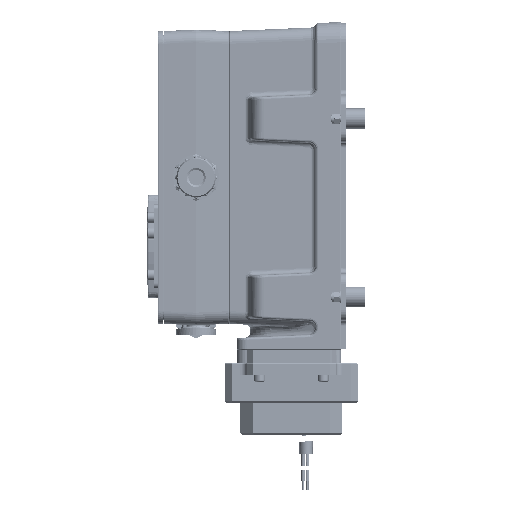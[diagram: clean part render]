
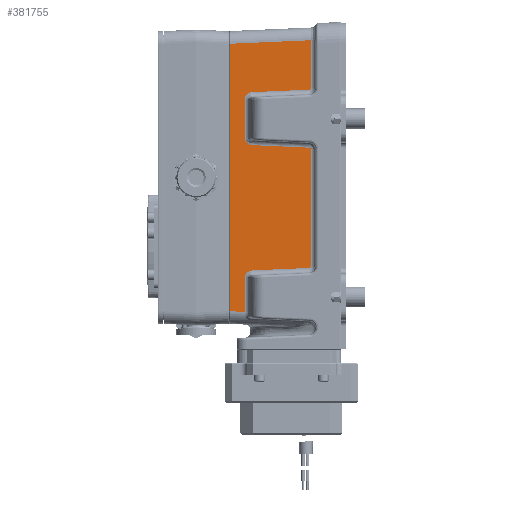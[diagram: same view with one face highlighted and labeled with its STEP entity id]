
A CAD part, left-side view. The second image highlights one B-rep face of the part: STEP entity #381755.
In plain terms, the highlighted planar face has unit normal (-0.999, 0.044, 0).
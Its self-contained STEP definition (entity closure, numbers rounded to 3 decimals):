
#82332=DIRECTION('',(0.,0.,-1.));
#82333=VECTOR('',#82332,37.794);
#82334=CARTESIAN_POINT('',(-47.771,-15.174,
107.781));
#82335=LINE('',#82334,#82333);
#82336=CARTESIAN_POINT('',(-47.771,-15.174,
69.986));
#82337=CARTESIAN_POINT('',(-47.771,-15.174,
69.853));
#82338=CARTESIAN_POINT('',(-47.769,-15.125,
69.608));
#82339=CARTESIAN_POINT('',(-47.76,-14.916,
69.277));
#82340=CARTESIAN_POINT('',(-47.746,-14.595,
69.053));
#82341=CARTESIAN_POINT('',(-47.735,-14.351,
68.993));
#82342=CARTESIAN_POINT('',(-47.73,-14.218,
68.987));
#82344=DIRECTION('',(0.044,0.998,-0.044));
#82345=VECTOR('',#82344,44.815);
#82346=CARTESIAN_POINT('',(-47.73,-14.218,
68.987));
#82347=LINE('',#82346,#82345);
#82348=CARTESIAN_POINT('',(-45.777,30.512,
67.034));
#82349=CARTESIAN_POINT('',(-45.751,31.098,
67.009));
#82350=CARTESIAN_POINT('',(-45.702,32.212,
66.817));
#82351=CARTESIAN_POINT('',(-45.634,33.769,
66.129));
#82352=CARTESIAN_POINT('',(-45.579,35.046,
65.114));
#82353=CARTESIAN_POINT('',(-45.537,35.989,
63.865));
#82354=CARTESIAN_POINT('',(-45.513,36.562,
62.464));
#82355=CARTESIAN_POINT('',(-45.507,36.689,
61.501));
#82356=CARTESIAN_POINT('',(-45.507,36.689,
61.007));
#82358=DIRECTION('',(0.,0.,-1.));
#82359=VECTOR('',#82358,29.614);
#82360=CARTESIAN_POINT('',(-45.507,36.689,
61.007));
#82361=LINE('',#82360,#82359);
#82362=CARTESIAN_POINT('',(-45.507,36.689,
31.393));
#82363=CARTESIAN_POINT('',(-45.507,36.689,
30.899));
#82364=CARTESIAN_POINT('',(-45.513,36.561,
29.936));
#82365=CARTESIAN_POINT('',(-45.537,35.989,
28.535));
#82366=CARTESIAN_POINT('',(-45.579,35.046,
27.286));
#82367=CARTESIAN_POINT('',(-45.634,33.769,
26.271));
#82368=CARTESIAN_POINT('',(-45.702,32.212,
25.583));
#82369=CARTESIAN_POINT('',(-45.751,31.098,
25.391));
#82370=CARTESIAN_POINT('',(-45.777,30.512,
25.366));
#82372=DIRECTION('',(-0.044,-0.998,-0.044));
#82373=VECTOR('',#82372,44.815);
#82374=CARTESIAN_POINT('',(-45.777,30.512,
25.366));
#82375=LINE('',#82374,#82373);
#82376=CARTESIAN_POINT('',(-47.73,-14.218,
23.413));
#82377=CARTESIAN_POINT('',(-47.735,-14.351,
23.407));
#82378=CARTESIAN_POINT('',(-47.746,-14.595,
23.347));
#82379=CARTESIAN_POINT('',(-47.76,-14.916,
23.123));
#82380=CARTESIAN_POINT('',(-47.769,-15.125,
22.792));
#82381=CARTESIAN_POINT('',(-47.771,-15.174,
22.547));
#82382=CARTESIAN_POINT('',(-47.771,-15.174,
22.414));
#82384=DIRECTION('',(0.,0.,-1.));
#82385=VECTOR('',#82384,92.427);
#82386=CARTESIAN_POINT('',(-47.771,-15.174,
22.414));
#82387=LINE('',#82386,#82385);
#82388=CARTESIAN_POINT('',(-47.771,-15.174,
-70.014));
#82389=CARTESIAN_POINT('',(-47.771,-15.174,
-70.147));
#82390=CARTESIAN_POINT('',(-47.769,-15.125,
-70.392));
#82391=CARTESIAN_POINT('',(-47.76,-14.916,
-70.723));
#82392=CARTESIAN_POINT('',(-47.746,-14.595,
-70.947));
#82393=CARTESIAN_POINT('',(-47.735,-14.351,
-71.007));
#82394=CARTESIAN_POINT('',(-47.73,-14.218,
-71.013));
#82396=DIRECTION('',(0.044,0.998,-0.044));
#82397=VECTOR('',#82396,44.815);
#82398=CARTESIAN_POINT('',(-47.73,-14.218,
-71.013));
#82399=LINE('',#82398,#82397);
#82400=CARTESIAN_POINT('',(-45.777,30.512,
-72.966));
#82401=CARTESIAN_POINT('',(-45.751,31.098,
-72.991));
#82402=CARTESIAN_POINT('',(-45.702,32.212,
-73.183));
#82403=CARTESIAN_POINT('',(-45.634,33.769,
-73.871));
#82404=CARTESIAN_POINT('',(-45.579,35.046,
-74.886));
#82405=CARTESIAN_POINT('',(-45.537,35.989,
-76.135));
#82406=CARTESIAN_POINT('',(-45.513,36.562,
-77.536));
#82407=CARTESIAN_POINT('',(-45.507,36.689,
-78.499));
#82408=CARTESIAN_POINT('',(-45.507,36.689,
-78.993));
#82410=DIRECTION('',(0.,0.,-1.));
#82411=VECTOR('',#82410,26.523);
#82412=CARTESIAN_POINT('',(-45.507,36.689,
-78.993));
#82413=LINE('',#82412,#82411);
#82414=DIRECTION('',(0.044,0.998,0.044));
#82415=VECTOR('',#82414,11.634);
#82416=CARTESIAN_POINT('',(-45.507,36.689,
-105.516));
#82417=LINE('',#82416,#82415);
#82418=DIRECTION('',(0.,0.,-1.));
#82419=VECTOR('',#82418,210.01);
#82420=CARTESIAN_POINT('',(-45.,48.3,
105.005));
#82421=LINE('',#82420,#82419);
#82422=DIRECTION('',(-0.044,-0.998,0.044));
#82423=VECTOR('',#82422,63.596);
#82424=CARTESIAN_POINT('',(-45.,48.3,
105.005));
#82425=LINE('',#82424,#82423);
#182080=CARTESIAN_POINT('',(-45.,48.3,
105.005));
#182081=CARTESIAN_POINT('',(-45.,48.3,
-105.005));
#182082=VERTEX_POINT('',#182080);
#182083=VERTEX_POINT('',#182081);
#182247=CARTESIAN_POINT('',(-47.771,-15.174,
107.781));
#182248=CARTESIAN_POINT('',(-47.771,-15.174,
69.986));
#182249=VERTEX_POINT('',#182247);
#182250=VERTEX_POINT('',#182248);
#182253=VERTEX_POINT('',#82342);
#182254=CARTESIAN_POINT('',(-45.777,30.512,
67.034));
#182255=VERTEX_POINT('',#182254);
#182256=VERTEX_POINT('',#82356);
#182257=CARTESIAN_POINT('',(-45.507,36.689,
31.393));
#182258=VERTEX_POINT('',#182257);
#182259=VERTEX_POINT('',#82370);
#182260=CARTESIAN_POINT('',(-47.73,-14.218,
23.413));
#182261=VERTEX_POINT('',#182260);
#182262=VERTEX_POINT('',#82382);
#182263=CARTESIAN_POINT('',(-47.771,-15.174,
-70.014));
#182264=VERTEX_POINT('',#182263);
#182265=VERTEX_POINT('',#82394);
#182266=CARTESIAN_POINT('',(-45.777,30.512,
-72.966));
#182267=VERTEX_POINT('',#182266);
#182268=VERTEX_POINT('',#82408);
#182269=CARTESIAN_POINT('',(-45.507,36.689,
-105.516));
#182270=VERTEX_POINT('',#182269);
#381719=CARTESIAN_POINT('',(-45.,48.3,105.));
#381720=DIRECTION('',(-0.999,0.044,0.));
#381721=DIRECTION('',(0.,0.,-1.));
#381722=AXIS2_PLACEMENT_3D('',#381719,#381720,#381721);
#381723=PLANE('',#381722);
#381725=ORIENTED_EDGE('',*,*,#381724,.T.);
#381727=ORIENTED_EDGE('',*,*,#381726,.T.);
#381729=ORIENTED_EDGE('',*,*,#381728,.T.);
#381731=ORIENTED_EDGE('',*,*,#381730,.T.);
#381733=ORIENTED_EDGE('',*,*,#381732,.T.);
#381735=ORIENTED_EDGE('',*,*,#381734,.T.);
#381737=ORIENTED_EDGE('',*,*,#381736,.T.);
#381739=ORIENTED_EDGE('',*,*,#381738,.T.);
#381741=ORIENTED_EDGE('',*,*,#381740,.T.);
#381743=ORIENTED_EDGE('',*,*,#381742,.T.);
#381745=ORIENTED_EDGE('',*,*,#381744,.T.);
#381747=ORIENTED_EDGE('',*,*,#381746,.T.);
#381749=ORIENTED_EDGE('',*,*,#381748,.T.);
#381750=ORIENTED_EDGE('',*,*,#381710,.T.);
#381751=ORIENTED_EDGE('',*,*,#380493,.F.);
#381752=ORIENTED_EDGE('',*,*,#380521,.T.);
#381753=EDGE_LOOP('',(#381725,#381727,#381729,#381731,#381733,#381735,#381737,
#381739,#381741,#381743,#381745,#381747,#381749,#381750,#381751,#381752));
#381754=FACE_OUTER_BOUND('',#381753,.F.);
#82343=B_SPLINE_CURVE_WITH_KNOTS('',3,(#82336,#82337,#82338,#82339,#82340,
#82341,#82342),.UNSPECIFIED.,.F.,.F.,(4,1,1,1,4),(0.,0.25,0.5,0.75,
1.),.UNSPECIFIED.);
#82357=B_SPLINE_CURVE_WITH_KNOTS('',3,(#82348,#82349,#82350,#82351,#82352,
#82353,#82354,#82355,#82356),.UNSPECIFIED.,.F.,.F.,(4,1,1,1,1,1,4),(0.,
0.167,0.333,0.5,0.667,0.833,
1.),.UNSPECIFIED.);
#82371=B_SPLINE_CURVE_WITH_KNOTS('',3,(#82362,#82363,#82364,#82365,#82366,
#82367,#82368,#82369,#82370),.UNSPECIFIED.,.F.,.F.,(4,1,1,1,1,1,4),(0.,
0.167,0.333,0.5,0.667,0.833,
1.),.UNSPECIFIED.);
#82383=B_SPLINE_CURVE_WITH_KNOTS('',3,(#82376,#82377,#82378,#82379,#82380,
#82381,#82382),.UNSPECIFIED.,.F.,.F.,(4,1,1,1,4),(0.,0.25,0.5,0.75,
1.),.UNSPECIFIED.);
#82395=B_SPLINE_CURVE_WITH_KNOTS('',3,(#82388,#82389,#82390,#82391,#82392,
#82393,#82394),.UNSPECIFIED.,.F.,.F.,(4,1,1,1,4),(0.,0.25,0.5,0.75,
1.),.UNSPECIFIED.);
#82409=B_SPLINE_CURVE_WITH_KNOTS('',3,(#82400,#82401,#82402,#82403,#82404,
#82405,#82406,#82407,#82408),.UNSPECIFIED.,.F.,.F.,(4,1,1,1,1,1,4),(0.,
0.167,0.333,0.5,0.667,0.833,
1.),.UNSPECIFIED.);
#380493=EDGE_CURVE('',#182082,#182083,#82421,.T.);
#380521=EDGE_CURVE('',#182082,#182249,#82425,.T.);
#381710=EDGE_CURVE('',#182270,#182083,#82417,.T.);
#381724=EDGE_CURVE('',#182249,#182250,#82335,.T.);
#381726=EDGE_CURVE('',#182250,#182253,#82343,.T.);
#381728=EDGE_CURVE('',#182253,#182255,#82347,.T.);
#381730=EDGE_CURVE('',#182255,#182256,#82357,.T.);
#381732=EDGE_CURVE('',#182256,#182258,#82361,.T.);
#381734=EDGE_CURVE('',#182258,#182259,#82371,.T.);
#381736=EDGE_CURVE('',#182259,#182261,#82375,.T.);
#381738=EDGE_CURVE('',#182261,#182262,#82383,.T.);
#381740=EDGE_CURVE('',#182262,#182264,#82387,.T.);
#381742=EDGE_CURVE('',#182264,#182265,#82395,.T.);
#381744=EDGE_CURVE('',#182265,#182267,#82399,.T.);
#381746=EDGE_CURVE('',#182267,#182268,#82409,.T.);
#381748=EDGE_CURVE('',#182268,#182270,#82413,.T.);
#381755=ADVANCED_FACE('',(#381754),#381723,.T.);
